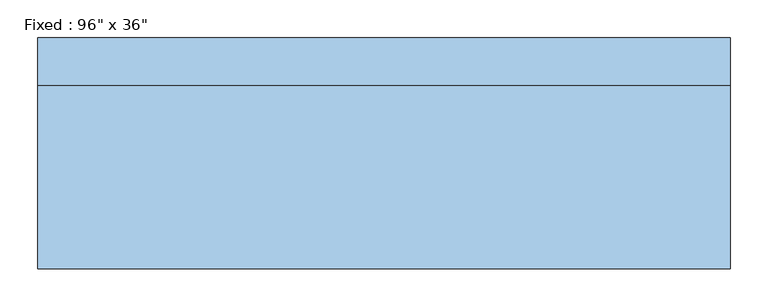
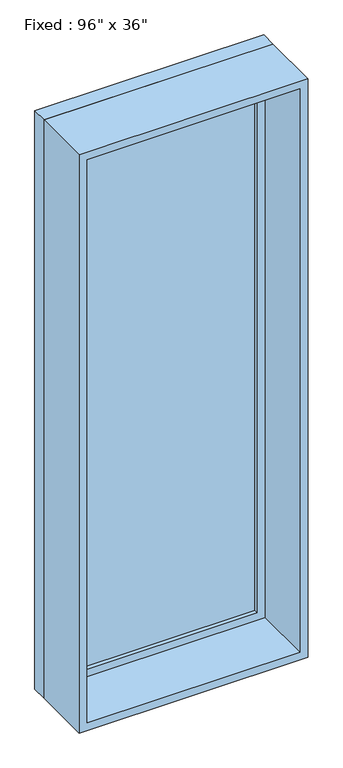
"""IFC4 building model written with IfcOpenShell, lengths in millimetres: window geometry."""

from ifc_helpers import new_model, si_unit, frame, origin, place, context, project, spatial, polyline, outline, extrude, source, transform, mapped, element, save


def window_57972af0(model_context):
    return source(origin(), model_context, "Body", "SweptSolid", [
        extrude(outline(polyline([(355.6, 104.775), (-431.8, 104.775), (-431.8, 117.475), (355.6, 117.475), (355.6, 104.775)])), frame((0.0, 0.0, 977.9), z_axis=(0.0, 0.0, 1.0), x_axis=(1.0, 0.0, 0.0)), (0.0, 0.0, 1.0), 2311.4),
        extrude(outline(polyline([(3333.75, -476.25), (933.45, -476.25), (933.45, 400.05), (3333.75, 400.05), (3333.75, -476.25)]), holes=[polyline([(3289.3, -431.8), (3289.3, 355.6), (977.9, 355.6), (977.9, -431.8), (3289.3, -431.8)])]), frame((0.0, 88.9, 0.0), z_axis=(0.0, 1.0, 0.0), x_axis=(0.0, 0.0, 1.0)), (0.0, 0.0, 1.0), 44.45),
        extrude(outline(polyline([(3352.8, -495.3), (914.4, -495.3), (914.4, 419.1), (3352.8, 419.1), (3352.8, -495.3)]), holes=[polyline([(3321.05, -463.55), (3321.05, 387.35), (946.15, 387.35), (946.15, -463.55), (3321.05, -463.55)])]), frame((0.0, -152.4, 0.0), z_axis=(0.0, 1.0, 0.0), x_axis=(0.0, 0.0, 1.0)), (0.0, 0.0, 1.0), 241.3),
        extrude(outline(polyline([(3352.8, 419.1), (3352.8, -495.3), (914.4, -495.3), (914.4, 419.1), (3352.8, 419.1)]), holes=[polyline([(3333.75, 400.05), (933.45, 400.05), (933.45, -476.25), (3333.75, -476.25), (3333.75, 400.05)])]), frame((0.0, 88.9, 0.0), z_axis=(0.0, 1.0, 0.0), x_axis=(0.0, 0.0, 1.0)), (0.0, 0.0, 1.0), 63.5),
    ])


if __name__ == "__main__":
    model = new_model("IFC4")
    model_context = context("Model", 3, world=origin())
    ifc_project = project(units=[si_unit("LENGTHUNIT", "METRE", prefix="MILLI")], contexts=[model_context])
    site = spatial("IfcSite", under=ifc_project)
    building = spatial("IfcBuilding", under=site)
    placement = place(None, origin())
    window_shape = window_57972af0(model_context)
    element("IfcWindow", 1, ObjectType="Fixed : 96\" x 36\"", at=placement, inside=building, context=model_context, shape_type="MappedRepresentation", body=[
        mapped(window_shape, transform((0.0, 0.0, 0.0), x_axis=(1.0, 0.0, 0.0), y_axis=(0.0, 1.0, 0.0), z_axis=(0.0, 0.0, 1.0))),
    ])
    save(model, "model.ifc")
